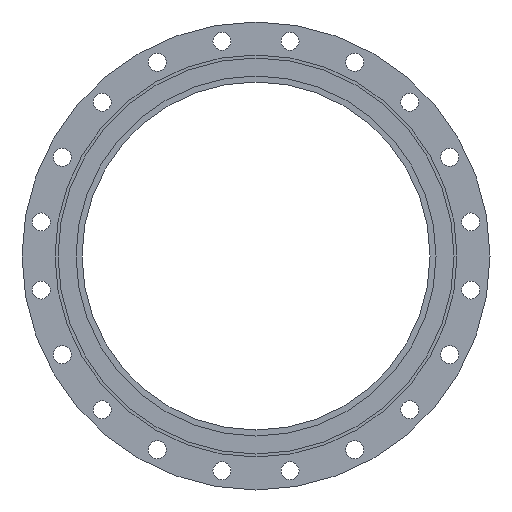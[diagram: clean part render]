
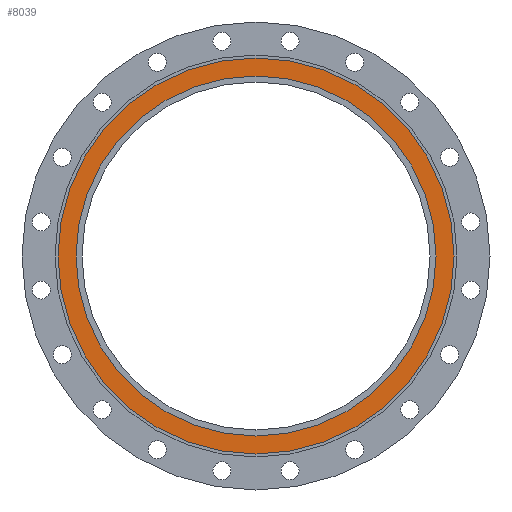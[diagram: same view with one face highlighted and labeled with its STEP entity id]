
A CAD part, left-side view. The second image highlights one B-rep face of the part: STEP entity #8039.
In plain terms, the highlighted planar face has unit normal (-1, 0, 0).
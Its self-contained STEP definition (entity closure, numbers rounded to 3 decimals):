
#8039=ADVANCED_FACE('',(#14478,#14480),#14482,.T.);
#14478=FACE_BOUND('',#14479,.T.);
#14479=EDGE_LOOP('',(#19798,#19799));
#14480=FACE_BOUND('',#14481,.T.);
#14481=EDGE_LOOP('',(#19800,#19801));
#14482=PLANE('',#14483);
#14483=AXIS2_PLACEMENT_3D('',#14484,#14485,#14486);
#14484=CARTESIAN_POINT('',(11101.719,-2369.103,0.));
#14485=DIRECTION('',(-1.,0.,0.));
#14486=DIRECTION('',(0.,0.,1.));
#19798=ORIENTED_EDGE('',*,*,#22483,.F.);
#19799=ORIENTED_EDGE('',*,*,#22484,.F.);
#19800=ORIENTED_EDGE('',*,*,#22481,.T.);
#19801=ORIENTED_EDGE('',*,*,#22482,.T.);
#22481=EDGE_CURVE('',#26778,#26779,#26780,.T.);
#22482=EDGE_CURVE('',#26779,#26778,#26781,.T.);
#22483=EDGE_CURVE('',#26782,#26783,#26784,.T.);
#22484=EDGE_CURVE('',#26783,#26782,#26785,.T.);
#26778=VERTEX_POINT('',#36285);
#26779=VERTEX_POINT('',#36286);
#26780=CIRCLE('',#36287,300.);
#26781=CIRCLE('',#36291,300.);
#26782=VERTEX_POINT('',#36295);
#26783=VERTEX_POINT('',#36296);
#26784=CIRCLE('',#36297,330.);
#26785=CIRCLE('',#36301,330.);
#36285=CARTESIAN_POINT('',(11101.719,-2339.103,0.));
#36286=CARTESIAN_POINT('',(11101.719,-1739.103,0.));
#36287=AXIS2_PLACEMENT_3D('',#36288,#36289,#36290);
#36288=CARTESIAN_POINT('',(11101.719,-2039.103,0.));
#36289=DIRECTION('',(1.,0.,0.));
#36290=DIRECTION('',(0.,-1.,0.));
#36291=AXIS2_PLACEMENT_3D('',#36292,#36293,#36294);
#36292=CARTESIAN_POINT('',(11101.719,-2039.103,0.));
#36293=DIRECTION('',(1.,0.,0.));
#36294=DIRECTION('',(0.,1.,0.));
#36295=CARTESIAN_POINT('',(11101.719,-1709.103,0.));
#36296=CARTESIAN_POINT('',(11101.719,-2369.103,0.));
#36297=AXIS2_PLACEMENT_3D('',#36298,#36299,#36300);
#36298=CARTESIAN_POINT('',(11101.719,-2039.103,0.));
#36299=DIRECTION('',(1.,0.,0.));
#36300=DIRECTION('',(0.,1.,0.));
#36301=AXIS2_PLACEMENT_3D('',#36302,#36303,#36304);
#36302=CARTESIAN_POINT('',(11101.719,-2039.103,0.));
#36303=DIRECTION('',(1.,0.,0.));
#36304=DIRECTION('',(0.,-1.,0.));
